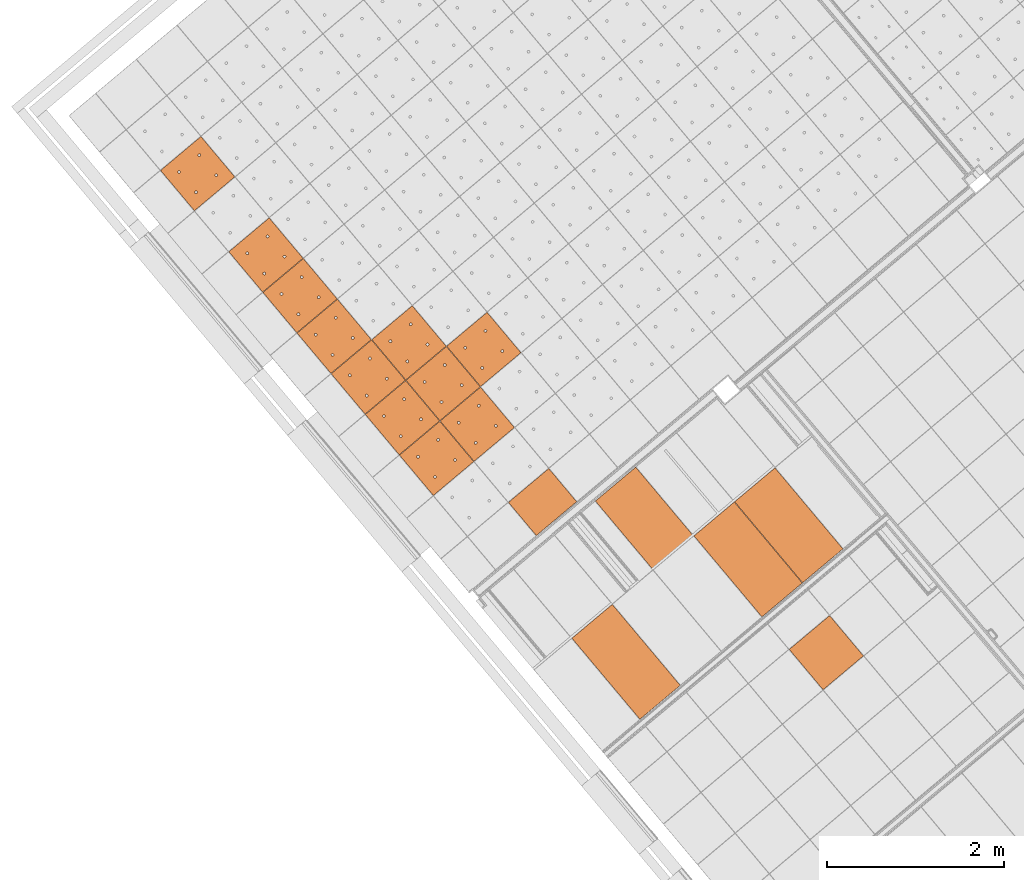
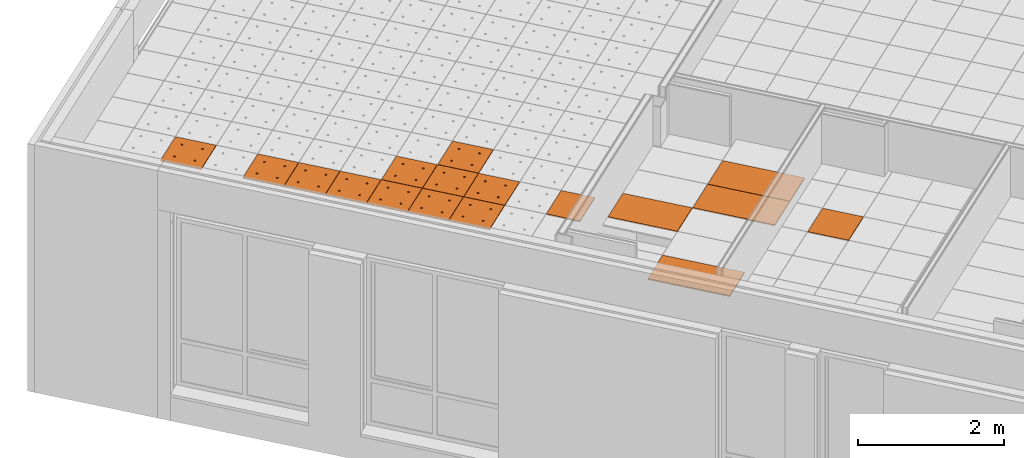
# One storey, part 138 of 338: 17 proxies, 3 elements without a shape of their own.
"""IFC2X3 building model written with IfcOpenShell, lengths in millimetres."""

from ifc_helpers import new_model, entity, si_unit, converted_unit, derived_unit, money_unit, direction, frame, origin_with_axes, place, context, subcontext, project, spatial, faceted_brep, source, transform, mapped, material, type_object, type_shapes, element, aggregate, save


model = new_model("IFC2X3")

# Units and contexts
model_context = context("Model", 3, precision=0.01, world=origin_with_axes(), true_north=direction((0.0, 1.0)))
plan_context = context("Plan", 3, precision=0.01, world=origin_with_axes(), true_north=direction((0.0, 1.0)))
body_context = subcontext(model_context, "Body", "Model", "MODEL_VIEW")
ifc_project = project(units=[si_unit("LENGTHUNIT", "METRE", prefix="MILLI"), si_unit("AREAUNIT", "SQUARE_METRE"), si_unit("VOLUMEUNIT", "CUBIC_METRE"), converted_unit("PLANEANGLEUNIT", "DEGREE", entity("IfcPlaneAngleMeasure", 0.0174532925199), si_unit("PLANEANGLEUNIT", "RADIAN"), dimensions=[0, 0, 0, 0, 0, 0, 0]), money_unit("EUR"), converted_unit("TIMEUNIT", "Year", entity("IfcTimeMeasure", 31556926.0), si_unit("TIMEUNIT", "SECOND"), dimensions=[0, 0, 1, 0, 0, 0, 0]), si_unit("MASSUNIT", "GRAM", prefix="KILO"), si_unit("THERMODYNAMICTEMPERATUREUNIT", "DEGREE_CELSIUS"), si_unit("LUMINOUSINTENSITYUNIT", "LUMEN"), si_unit("ENERGYUNIT", "JOULE", prefix="MEGA"), derived_unit("THERMALCONDUCTANCEUNIT", [(si_unit("POWERUNIT", "WATT"), 1), (si_unit("LENGTHUNIT", "METRE"), -1), (si_unit("THERMODYNAMICTEMPERATUREUNIT", "KELVIN"), -1)]), derived_unit("SPECIFICHEATCAPACITYUNIT", [(si_unit("ENERGYUNIT", "JOULE"), 1), (si_unit("MASSUNIT", "GRAM", prefix="KILO"), -1), (si_unit("THERMODYNAMICTEMPERATUREUNIT", "KELVIN"), -1)]), derived_unit("MASSDENSITYUNIT", [(si_unit("MASSUNIT", "GRAM", prefix="KILO"), 1), (si_unit("VOLUMEUNIT", "CUBIC_METRE"), -1)])], contexts=[model_context, plan_context])

# Site, building, storey
site_placement = place(None, origin_with_axes())
site = spatial("IfcSite", under=ifc_project, at=site_placement, Name="Fortuinstraat Woensdrecht", CompositionType="ELEMENT")
building_placement = place(site_placement, origin_with_axes())
building = spatial("IfcBuilding", under=site, at=building_placement, Name="IKC Fortuna", CompositionType="ELEMENT")
storey_placement = place(building_placement, origin_with_axes())
storey = spatial("IfcBuildingStorey", under=building, at=storey_placement, Name="00 begane grond", CompositionType="ELEMENT", Elevation=0.0)

# Covering, proxy
covering_type = type_object("IfcCoveringType", Name="Curtain Wall Type", PredefinedType="CEILING")
covering_1_placement = place(storey_placement, frame((6990.12644751, -7663.89158706, 4260.0), z_axis=(0.0, 0.0, 1.0), x_axis=(1.0, 0.0, 0.0)))
covering_1 = element("IfcCovering", 1, at=covering_1_placement, inside=storey, type_object=covering_type, Name="45_Plafondafwerking_P02", PredefinedType="CEILING")
ifc_material = material(Name="Gipsplaat")
building_element_proxy_type_1 = type_object("IfcBuildingElementProxyType", Name="Distinct Panel 600 x 600 x 20", PredefinedType="NOTDEFINED")
shared_shape_1 = source(origin_with_axes(), body_context, "Body", "Brep", [
    faceted_brep([(2.49999999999, 2.5, -10.0), (597.5, 2.49999999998, -10.0), (597.5, 2.49999999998, 10.0), (2.49999999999, 2.5, 10.0), (2.50000000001, 597.5, -10.0), (597.5, 597.5, -10.0), (597.5, 597.5, 10.0), (2.50000000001, 597.5, 10.0)], [[[0, 1, 2, 3]], [[0, 4, 5, 1]], [[1, 5, 6, 2]], [[3, 2, 6, 7]], [[4, 0, 3, 7]], [[5, 4, 7, 6]]]),
])
type_shapes(building_element_proxy_type_1, [shared_shape_1])
proxy_1_placement = place(covering_1_placement, frame((1822.03080608, 1528.86616558, 0.0), z_axis=(0.0, 0.0, 1.0), x_axis=(1.0, 0.0, 0.0)))
proxy_1 = element("IfcBuildingElementProxy", 2, at=proxy_1_placement, type_object=building_element_proxy_type_1, material=ifc_material, Name="__Panel-D", context=body_context, shape_type="MappedRepresentation", body=[
    mapped(shared_shape_1, transform((36.9769427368, 422.649625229, 0.0), x_axis=(-0.766044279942, -0.642787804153, 0.0), y_axis=(0.642787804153, -0.766044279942, 0.0), z_axis=(0.0, 0.0, 1.0))),
])
aggregate(covering_1, [proxy_1])

# Covering, proxies
covering_2_placement = place(storey_placement, frame((9775.85169731, -1002.28242867, 4660.0), z_axis=(0.0, 0.0, 1.0), x_axis=(1.0, 0.0, 0.0)))
covering_2 = element("IfcCovering", 3, at=covering_2_placement, inside=storey, type_object=covering_type, Name="45_Plafondafwerking_P01", PredefinedType="CEILING")
building_element_proxy_type_2 = type_object("IfcBuildingElementProxyType", Name="Main Panel 600 x 600 x 20", PredefinedType="NOTDEFINED")
shared_shape_2 = source(origin_with_axes(), body_context, "Body", "Brep", [
    faceted_brep([(2.49999999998, 2.49999999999, -10.0), (300.0, 2.49999999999, -10.0), (300.0, 2.49999999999, 10.0), (2.49999999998, 2.49999999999, 10.0), (2.49999999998, 300.0, -10.0), (2.49999999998, 597.5, -10.0), (300.0, 597.5, -10.0), (597.5, 597.5, -10.0), (597.5, 300.0, -10.0), (597.5, 2.49999999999, -10.0), (166.25, 450.06232995, -10.0), (165.79423259, 452.64711538, -10.0), (164.896546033, 455.11348892, -10.0), (163.58421608, 457.38651108, -10.0), (161.897117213, 459.39711721, -10.0), (159.886511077, 461.08421608, -10.0), (157.613488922, 462.39654603, -10.0), (155.147115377, 463.29423259, -10.0), (152.562329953, 463.75, -10.0), (149.937670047, 463.75, -10.0), (147.352884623, 463.29423259, -10.0), (144.886511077, 462.39654603, -10.0), (142.613488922, 461.08421608, -10.0), (140.602882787, 459.39711721, -10.0), (138.91578392, 457.38651108, -10.0), (137.603453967, 455.11348892, -10.0), (136.705767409, 452.64711538, -10.0), (136.25, 450.06232995, -10.0), (136.25, 448.75, -10.0), (136.25, 447.43767005, -10.0), (136.705767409, 444.85288462, -10.0), (137.603453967, 442.38651108, -10.0), (138.91578392, 440.11348892, -10.0), (140.602882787, 438.10288279, -10.0), (142.613488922, 436.41578392, -10.0), (144.886511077, 435.10345397, -10.0), (147.352884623, 434.20576741, -10.0), (149.937670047, 433.75, -10.0), (152.562329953, 433.75, -10.0), (155.147115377, 434.20576741, -10.0), (157.613488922, 435.10345397, -10.0), (159.886511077, 436.41578392, -10.0), (161.897117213, 438.10288279, -10.0), (163.58421608, 440.11348892, -10.0), (164.896546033, 442.38651108, -10.0), (165.79423259, 444.85288462, -10.0), (166.25, 447.43767005, -10.0), (463.75, 450.06232995, -10.0), (463.29423259, 452.64711538, -10.0), (462.396546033, 455.11348892, -10.0), (461.08421608, 457.38651108, -10.0), (459.397117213, 459.39711721, -10.0), (457.386511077, 461.08421608, -10.0), (455.113488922, 462.39654603, -10.0), (452.647115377, 463.29423259, -10.0), (450.062329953, 463.75, -10.0), (447.437670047, 463.75, -10.0), (444.852884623, 463.29423259, -10.0), (442.386511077, 462.39654603, -10.0), (440.113488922, 461.08421608, -10.0), (438.102882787, 459.39711721, -10.0), (436.41578392, 457.38651108, -10.0), (435.103453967, 455.11348892, -10.0), (434.205767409, 452.64711538, -10.0), (433.75, 450.06232995, -10.0), (433.75, 448.75, -10.0), (433.75, 447.43767005, -10.0), (434.205767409, 444.85288462, -10.0), (435.103453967, 442.38651108, -10.0), (436.41578392, 440.11348892, -10.0), (438.102882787, 438.10288279, -10.0), (440.113488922, 436.41578392, -10.0), (442.386511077, 435.10345397, -10.0), (444.852884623, 434.20576741, -10.0), (447.437670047, 433.75, -10.0), (450.062329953, 433.75, -10.0), (452.647115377, 434.20576741, -10.0), (455.113488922, 435.10345397, -10.0), (457.386511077, 436.41578392, -10.0), (459.397117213, 438.10288279, -10.0), (461.08421608, 440.11348892, -10.0), (462.396546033, 442.38651108, -10.0), (463.29423259, 444.85288462, -10.0), (463.75, 447.43767005, -10.0), (463.75, 152.56232995, -10.0), (463.29423259, 155.14711538, -10.0), (462.396546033, 157.61348892, -10.0), (461.08421608, 159.88651108, -10.0), (459.397117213, 161.89711721, -10.0), (457.386511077, 163.58421608, -10.0), (455.113488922, 164.89654603, -10.0), (452.647115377, 165.79423259, -10.0), (450.062329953, 166.25, -10.0), (447.437670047, 166.25, -10.0), (444.852884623, 165.79423259, -10.0), (442.386511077, 164.89654603, -10.0), (440.113488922, 163.58421608, -10.0), (438.102882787, 161.89711721, -10.0), (436.41578392, 159.88651108, -10.0), (435.103453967, 157.61348892, -10.0), (434.205767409, 155.14711538, -10.0), (433.75, 152.56232995, -10.0), (433.75, 151.25, -10.0), (433.75, 149.93767005, -10.0), (434.205767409, 147.35288462, -10.0), (435.103453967, 144.88651108, -10.0), (436.41578392, 142.61348892, -10.0), (438.102882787, 140.60288279, -10.0), (440.113488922, 138.91578392, -10.0), (442.386511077, 137.60345397, -10.0), (444.852884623, 136.70576741, -10.0), (447.437670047, 136.25, -10.0), (450.062329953, 136.25, -10.0), (452.647115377, 136.70576741, -10.0), (455.113488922, 137.60345397, -10.0), (457.386511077, 138.91578392, -10.0), (459.397117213, 140.60288279, -10.0), (461.08421608, 142.61348892, -10.0), (462.396546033, 144.88651108, -10.0), (463.29423259, 147.35288462, -10.0), (463.75, 149.93767005, -10.0), (166.25, 152.56232995, -10.0), (165.79423259, 155.14711538, -10.0), (164.896546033, 157.61348892, -10.0), (163.58421608, 159.88651108, -10.0), (161.897117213, 161.89711721, -10.0), (159.886511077, 163.58421608, -10.0), (157.613488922, 164.89654603, -10.0), (155.147115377, 165.79423259, -10.0), (152.562329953, 166.25, -10.0), (149.937670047, 166.25, -10.0), (147.352884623, 165.79423259, -10.0), (144.886511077, 164.89654603, -10.0), (142.613488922, 163.58421608, -10.0), (140.602882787, 161.89711721, -10.0), (138.91578392, 159.88651108, -10.0), (137.603453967, 157.61348892, -10.0), (136.705767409, 155.14711538, -10.0), (136.25, 152.56232995, -10.0), (136.25, 151.25, -10.0), (136.25, 149.93767005, -10.0), (136.705767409, 147.35288462, -10.0), (137.603453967, 144.88651108, -10.0), (138.91578392, 142.61348892, -10.0), (140.602882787, 140.60288279, -10.0), (142.613488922, 138.91578392, -10.0), (144.886511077, 137.60345397, -10.0), (147.352884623, 136.70576741, -10.0), (149.937670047, 136.25, -10.0), (152.562329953, 136.25, -10.0), (155.147115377, 136.70576741, -10.0), (157.613488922, 137.60345397, -10.0), (159.886511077, 138.91578392, -10.0), (161.897117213, 140.60288279, -10.0), (163.58421608, 142.61348892, -10.0), (164.896546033, 144.88651108, -10.0), (165.79423259, 147.35288462, -10.0), (166.25, 149.93767005, -10.0), (597.5, 2.49999999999, 10.0), (597.5, 300.0, 10.0), (597.5, 597.5, 10.0), (300.0, 597.5, 10.0), (2.49999999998, 597.5, 10.0), (2.49999999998, 300.0, 10.0), (166.25, 450.06232995, 10.0), (166.25, 447.43767005, 10.0), (165.79423259, 444.85288462, 10.0), (164.896546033, 442.38651108, 10.0), (163.58421608, 440.11348892, 10.0), (161.897117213, 438.10288279, 10.0), (159.886511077, 436.41578392, 10.0), (157.613488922, 435.10345397, 10.0), (155.147115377, 434.20576741, 10.0), (152.562329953, 433.75, 10.0), (149.937670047, 433.75, 10.0), (147.352884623, 434.20576741, 10.0), (144.886511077, 435.10345397, 10.0), (142.613488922, 436.41578392, 10.0), (140.602882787, 438.10288279, 10.0), (138.91578392, 440.11348892, 10.0), (137.603453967, 442.38651108, 10.0), (136.705767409, 444.85288462, 10.0), (136.25, 447.43767005, 10.0), (136.25, 448.75, 10.0), (136.25, 450.06232995, 10.0), (136.705767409, 452.64711538, 10.0), (137.603453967, 455.11348892, 10.0), (138.91578392, 457.38651108, 10.0), (140.602882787, 459.39711721, 10.0), (142.613488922, 461.08421608, 10.0), (144.886511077, 462.39654603, 10.0), (147.352884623, 463.29423259, 10.0), (149.937670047, 463.75, 10.0), (152.562329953, 463.75, 10.0), (155.147115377, 463.29423259, 10.0), (157.613488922, 462.39654603, 10.0), (159.886511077, 461.08421608, 10.0), (161.897117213, 459.39711721, 10.0), (163.58421608, 457.38651108, 10.0), (164.896546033, 455.11348892, 10.0), (165.79423259, 452.64711538, 10.0), (463.75, 450.06232995, 10.0), (463.75, 447.43767005, 10.0), (463.29423259, 444.85288462, 10.0), (462.396546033, 442.38651108, 10.0), (461.08421608, 440.11348892, 10.0), (459.397117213, 438.10288279, 10.0), (457.386511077, 436.41578392, 10.0), (455.113488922, 435.10345397, 10.0), (452.647115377, 434.20576741, 10.0), (450.062329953, 433.75, 10.0), (447.437670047, 433.75, 10.0), (444.852884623, 434.20576741, 10.0), (442.386511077, 435.10345397, 10.0), (440.113488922, 436.41578392, 10.0), (438.102882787, 438.10288279, 10.0), (436.41578392, 440.11348892, 10.0), (435.103453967, 442.38651108, 10.0), (434.205767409, 444.85288462, 10.0), (433.75, 447.43767005, 10.0), (433.75, 448.75, 10.0), (433.75, 450.06232995, 10.0), (434.205767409, 452.64711538, 10.0), (435.103453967, 455.11348892, 10.0), (436.41578392, 457.38651108, 10.0), (438.102882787, 459.39711721, 10.0), (440.113488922, 461.08421608, 10.0), (442.386511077, 462.39654603, 10.0), (444.852884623, 463.29423259, 10.0), (447.437670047, 463.75, 10.0), (450.062329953, 463.75, 10.0), (452.647115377, 463.29423259, 10.0), (455.113488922, 462.39654603, 10.0), (457.386511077, 461.08421608, 10.0), (459.397117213, 459.39711721, 10.0), (461.08421608, 457.38651108, 10.0), (462.396546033, 455.11348892, 10.0), (463.29423259, 452.64711538, 10.0), (463.75, 152.56232995, 10.0), (463.75, 149.93767005, 10.0), (463.29423259, 147.35288462, 10.0), (462.396546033, 144.88651108, 10.0), (461.08421608, 142.61348892, 10.0), (459.397117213, 140.60288279, 10.0), (457.386511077, 138.91578392, 10.0), (455.113488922, 137.60345397, 10.0), (452.647115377, 136.70576741, 10.0), (450.062329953, 136.25, 10.0), (447.437670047, 136.25, 10.0), (444.852884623, 136.70576741, 10.0), (442.386511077, 137.60345397, 10.0), (440.113488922, 138.91578392, 10.0), (438.102882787, 140.60288279, 10.0), (436.41578392, 142.61348892, 10.0), (435.103453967, 144.88651108, 10.0), (434.205767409, 147.35288462, 10.0), (433.75, 149.93767005, 10.0), (433.75, 151.25, 10.0), (433.75, 152.56232995, 10.0), (434.205767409, 155.14711538, 10.0), (435.103453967, 157.61348892, 10.0), (436.41578392, 159.88651108, 10.0), (438.102882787, 161.89711721, 10.0), (440.113488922, 163.58421608, 10.0), (442.386511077, 164.89654603, 10.0), (444.852884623, 165.79423259, 10.0), (447.437670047, 166.25, 10.0), (450.062329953, 166.25, 10.0), (452.647115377, 165.79423259, 10.0), (455.113488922, 164.89654603, 10.0), (457.386511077, 163.58421608, 10.0), (459.397117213, 161.89711721, 10.0), (461.08421608, 159.88651108, 10.0), (462.396546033, 157.61348892, 10.0), (463.29423259, 155.14711538, 10.0), (166.25, 152.56232995, 10.0), (166.25, 149.93767005, 10.0), (165.79423259, 147.35288462, 10.0), (164.896546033, 144.88651108, 10.0), (163.58421608, 142.61348892, 10.0), (161.897117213, 140.60288279, 10.0), (159.886511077, 138.91578392, 10.0), (157.613488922, 137.60345397, 10.0), (155.147115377, 136.70576741, 10.0), (152.562329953, 136.25, 10.0), (149.937670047, 136.25, 10.0), (147.352884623, 136.70576741, 10.0), (144.886511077, 137.60345397, 10.0), (142.613488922, 138.91578392, 10.0), (140.602882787, 140.60288279, 10.0), (138.91578392, 142.61348892, 10.0), (137.603453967, 144.88651108, 10.0), (136.705767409, 147.35288462, 10.0), (136.25, 149.93767005, 10.0), (136.25, 151.25, 10.0), (136.25, 152.56232995, 10.0), (136.705767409, 155.14711538, 10.0), (137.603453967, 157.61348892, 10.0), (138.91578392, 159.88651108, 10.0), (140.602882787, 161.89711721, 10.0), (142.613488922, 163.58421608, 10.0), (144.886511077, 164.89654603, 10.0), (147.352884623, 165.79423259, 10.0), (149.937670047, 166.25, 10.0), (152.562329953, 166.25, 10.0), (155.147115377, 165.79423259, 10.0), (157.613488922, 164.89654603, 10.0), (159.886511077, 163.58421608, 10.0), (161.897117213, 161.89711721, 10.0), (163.58421608, 159.88651108, 10.0), (164.896546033, 157.61348892, 10.0), (165.79423259, 155.14711538, 10.0)], [[[0, 1, 2, 3]], [[0, 4, 5, 6, 7, 8, 9, 1], [10, 11, 12, 13, 14, 15, 16, 17, 18, 19, 20, 21, 22, 23, 24, 25, 26, 27, 28, 29, 30, 31, 32, 33, 34, 35, 36, 37, 38, 39, 40, 41, 42, 43, 44, 45, 46], [47, 48, 49, 50, 51, 52, 53, 54, 55, 56, 57, 58, 59, 60, 61, 62, 63, 64, 65, 66, 67, 68, 69, 70, 71, 72, 73, 74, 75, 76, 77, 78, 79, 80, 81, 82, 83], [84, 85, 86, 87, 88, 89, 90, 91, 92, 93, 94, 95, 96, 97, 98, 99, 100, 101, 102, 103, 104, 105, 106, 107, 108, 109, 110, 111, 112, 113, 114, 115, 116, 117, 118, 119, 120], [121, 122, 123, 124, 125, 126, 127, 128, 129, 130, 131, 132, 133, 134, 135, 136, 137, 138, 139, 140, 141, 142, 143, 144, 145, 146, 147, 148, 149, 150, 151, 152, 153, 154, 155, 156, 157]], [[1, 9, 158, 2]], [[3, 2, 158, 159, 160, 161, 162, 163], [164, 165, 166, 167, 168, 169, 170, 171, 172, 173, 174, 175, 176, 177, 178, 179, 180, 181, 182, 183, 184, 185, 186, 187, 188, 189, 190, 191, 192, 193, 194, 195, 196, 197, 198, 199, 200], [201, 202, 203, 204, 205, 206, 207, 208, 209, 210, 211, 212, 213, 214, 215, 216, 217, 218, 219, 220, 221, 222, 223, 224, 225, 226, 227, 228, 229, 230, 231, 232, 233, 234, 235, 236, 237], [238, 239, 240, 241, 242, 243, 244, 245, 246, 247, 248, 249, 250, 251, 252, 253, 254, 255, 256, 257, 258, 259, 260, 261, 262, 263, 264, 265, 266, 267, 268, 269, 270, 271, 272, 273, 274], [275, 276, 277, 278, 279, 280, 281, 282, 283, 284, 285, 286, 287, 288, 289, 290, 291, 292, 293, 294, 295, 296, 297, 298, 299, 300, 301, 302, 303, 304, 305, 306, 307, 308, 309, 310, 311]], [[4, 0, 3, 163]], [[5, 4, 163, 162]], [[6, 5, 162, 161]], [[7, 6, 161, 160]], [[8, 7, 160, 159]], [[9, 8, 159, 158]], [[11, 10, 164, 200]], [[12, 11, 200, 199]], [[13, 12, 199, 198]], [[14, 13, 198, 197]], [[15, 14, 197, 196]], [[16, 15, 196, 195]], [[17, 16, 195, 194]], [[18, 17, 194, 193]], [[19, 18, 193, 192]], [[20, 19, 192, 191]], [[21, 20, 191, 190]], [[22, 21, 190, 189]], [[23, 22, 189, 188]], [[24, 23, 188, 187]], [[25, 24, 187, 186]], [[26, 25, 186, 185]], [[27, 26, 185, 184]], [[28, 27, 184, 183]], [[29, 28, 183, 182]], [[30, 29, 182, 181]], [[31, 30, 181, 180]], [[32, 31, 180, 179]], [[33, 32, 179, 178]], [[34, 33, 178, 177]], [[35, 34, 177, 176]], [[36, 35, 176, 175]], [[37, 36, 175, 174]], [[38, 37, 174, 173]], [[39, 38, 173, 172]], [[40, 39, 172, 171]], [[41, 40, 171, 170]], [[42, 41, 170, 169]], [[43, 42, 169, 168]], [[44, 43, 168, 167]], [[45, 44, 167, 166]], [[46, 45, 166, 165]], [[10, 46, 165, 164]], [[48, 47, 201, 237]], [[49, 48, 237, 236]], [[50, 49, 236, 235]], [[51, 50, 235, 234]], [[52, 51, 234, 233]], [[53, 52, 233, 232]], [[54, 53, 232, 231]], [[55, 54, 231, 230]], [[56, 55, 230, 229]], [[57, 56, 229, 228]], [[58, 57, 228, 227]], [[59, 58, 227, 226]], [[60, 59, 226, 225]], [[61, 60, 225, 224]], [[62, 61, 224, 223]], [[63, 62, 223, 222]], [[64, 63, 222, 221]], [[65, 64, 221, 220]], [[66, 65, 220, 219]], [[67, 66, 219, 218]], [[68, 67, 218, 217]], [[69, 68, 217, 216]], [[70, 69, 216, 215]], [[71, 70, 215, 214]], [[72, 71, 214, 213]], [[73, 72, 213, 212]], [[74, 73, 212, 211]], [[75, 74, 211, 210]], [[76, 75, 210, 209]], [[77, 76, 209, 208]], [[78, 77, 208, 207]], [[79, 78, 207, 206]], [[80, 79, 206, 205]], [[81, 80, 205, 204]], [[82, 81, 204, 203]], [[83, 82, 203, 202]], [[47, 83, 202, 201]], [[85, 84, 238, 274]], [[86, 85, 274, 273]], [[87, 86, 273, 272]], [[88, 87, 272, 271]], [[89, 88, 271, 270]], [[90, 89, 270, 269]], [[91, 90, 269, 268]], [[92, 91, 268, 267]], [[93, 92, 267, 266]], [[94, 93, 266, 265]], [[95, 94, 265, 264]], [[96, 95, 264, 263]], [[97, 96, 263, 262]], [[98, 97, 262, 261]], [[99, 98, 261, 260]], [[100, 99, 260, 259]], [[101, 100, 259, 258]], [[102, 101, 258, 257]], [[103, 102, 257, 256]], [[104, 103, 256, 255]], [[105, 104, 255, 254]], [[106, 105, 254, 253]], [[107, 106, 253, 252]], [[108, 107, 252, 251]], [[109, 108, 251, 250]], [[110, 109, 250, 249]], [[111, 110, 249, 248]], [[112, 111, 248, 247]], [[113, 112, 247, 246]], [[114, 113, 246, 245]], [[115, 114, 245, 244]], [[116, 115, 244, 243]], [[117, 116, 243, 242]], [[118, 117, 242, 241]], [[119, 118, 241, 240]], [[120, 119, 240, 239]], [[84, 120, 239, 238]], [[122, 121, 275, 311]], [[123, 122, 311, 310]], [[124, 123, 310, 309]], [[125, 124, 309, 308]], [[126, 125, 308, 307]], [[127, 126, 307, 306]], [[128, 127, 306, 305]], [[129, 128, 305, 304]], [[130, 129, 304, 303]], [[131, 130, 303, 302]], [[132, 131, 302, 301]], [[133, 132, 301, 300]], [[134, 133, 300, 299]], [[135, 134, 299, 298]], [[136, 135, 298, 297]], [[137, 136, 297, 296]], [[138, 137, 296, 295]], [[139, 138, 295, 294]], [[140, 139, 294, 293]], [[141, 140, 293, 292]], [[142, 141, 292, 291]], [[143, 142, 291, 290]], [[144, 143, 290, 289]], [[145, 144, 289, 288]], [[146, 145, 288, 287]], [[147, 146, 287, 286]], [[148, 147, 286, 285]], [[149, 148, 285, 284]], [[150, 149, 284, 283]], [[151, 150, 283, 282]], [[152, 151, 282, 281]], [[153, 152, 281, 280]], [[154, 153, 280, 279]], [[155, 154, 279, 278]], [[156, 155, 278, 277]], [[157, 156, 277, 276]], [[121, 157, 276, 275]]]),
])
type_shapes(building_element_proxy_type_2, [shared_shape_2])
proxy_2_placement = place(covering_2_placement, frame((-4834.03060557, -1706.50173892, 1.7674750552e-10), z_axis=(0.0, 0.0, 1.0), x_axis=(1.0, 0.0, 0.0)))
proxy_2 = element("IfcBuildingElementProxy", 4, at=proxy_2_placement, type_object=building_element_proxy_type_2, material=ifc_material, Name="__600x603 Rockfon Krios", context=body_context, shape_type="MappedRepresentation", body=[
    mapped(shared_shape_2, transform((36.9769427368, 422.649625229, 0.0), x_axis=(-0.766044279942, -0.642787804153, 0.0), y_axis=(0.642787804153, -0.766044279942, 0.0), z_axis=(0.0, 0.0, 1.0))),
])
proxy_3_placement = place(covering_2_placement, frame((-8067.31983645, 279.912303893, 2.16715534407e-10), z_axis=(0.0, 0.0, 1.0), x_axis=(1.0, 0.0, 0.0)))
proxy_3 = element("IfcBuildingElementProxy", 5, at=proxy_3_placement, type_object=building_element_proxy_type_2, material=ifc_material, Name="__600x607 Rockfon Krios", context=body_context, shape_type="MappedRepresentation", body=[
    mapped(shared_shape_2, transform((36.9769427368, 422.649625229, 0.0), x_axis=(-0.766044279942, -0.642787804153, 0.0), y_axis=(0.642787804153, -0.766044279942, 0.0), z_axis=(0.0, 0.0, 1.0))),
])
proxy_4_placement = place(covering_2_placement, frame((-5293.65717353, -2092.17442141, 1.96287430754e-10), z_axis=(0.0, 0.0, 1.0), x_axis=(1.0, 0.0, 0.0)))
proxy_4 = element("IfcBuildingElementProxy", 6, at=proxy_4_placement, type_object=building_element_proxy_type_2, material=ifc_material, Name="__600x633 Rockfon Krios", context=body_context, shape_type="MappedRepresentation", body=[
    mapped(shared_shape_2, transform((36.9769427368, 422.649625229, 0.0), x_axis=(-0.766044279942, -0.642787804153, 0.0), y_axis=(0.642787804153, -0.766044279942, 0.0), z_axis=(0.0, 0.0, 1.0))),
])
proxy_5_placement = place(covering_2_placement, frame((-6138.95642399, -2018.22053593, 2.16715534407e-10), z_axis=(0.0, 0.0, 1.0), x_axis=(1.0, 0.0, 0.0)))
proxy_5 = element("IfcBuildingElementProxy", 7, at=proxy_5_placement, type_object=building_element_proxy_type_2, material=ifc_material, Name="__600x673 Rockfon Krios", context=body_context, shape_type="MappedRepresentation", body=[
    mapped(shared_shape_2, transform((36.9769427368, 422.649625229, 0.0), x_axis=(-0.766044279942, -0.642787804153, 0.0), y_axis=(0.642787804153, -0.766044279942, 0.0), z_axis=(0.0, 0.0, 1.0))),
])
proxy_6_placement = place(covering_2_placement, frame((-7295.97447146, -639.340832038, 2.16715534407e-10), z_axis=(0.0, 0.0, 1.0), x_axis=(1.0, 0.0, 0.0)))
proxy_6 = element("IfcBuildingElementProxy", 8, at=proxy_6_placement, type_object=building_element_proxy_type_2, material=ifc_material, Name="__600x674 Rockfon Krios", context=body_context, shape_type="MappedRepresentation", body=[
    mapped(shared_shape_2, transform((36.9769427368, 422.649625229, 0.0), x_axis=(-0.766044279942, -0.642787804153, 0.0), y_axis=(0.642787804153, -0.766044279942, 0.0), z_axis=(0.0, 0.0, 1.0))),
])
proxy_7_placement = place(covering_2_placement, frame((-5753.2837415, -2477.8471039, 2.16715534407e-10), z_axis=(0.0, 0.0, 1.0), x_axis=(1.0, 0.0, 0.0)))
proxy_7 = element("IfcBuildingElementProxy", 9, at=proxy_7_placement, type_object=building_element_proxy_type_2, material=ifc_material, Name="__600x676 Rockfon Krios", context=body_context, shape_type="MappedRepresentation", body=[
    mapped(shared_shape_2, transform((36.9769427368, 422.649625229, 0.0), x_axis=(-0.766044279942, -0.642787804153, 0.0), y_axis=(0.642787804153, -0.766044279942, 0.0), z_axis=(0.0, 0.0, 1.0))),
])
proxy_8_placement = place(covering_2_placement, frame((-6524.62910648, -1558.59396797, 2.16715534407e-10), z_axis=(0.0, 0.0, 1.0), x_axis=(1.0, 0.0, 0.0)))
proxy_8 = element("IfcBuildingElementProxy", 10, at=proxy_8_placement, type_object=building_element_proxy_type_2, material=ifc_material, Name="__600x677 Rockfon Krios", context=body_context, shape_type="MappedRepresentation", body=[
    mapped(shared_shape_2, transform((36.9769427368, 422.649625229, 0.0), x_axis=(-0.766044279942, -0.642787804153, 0.0), y_axis=(0.642787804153, -0.766044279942, 0.0), z_axis=(0.0, 0.0, 1.0))),
])
proxy_9_placement = place(covering_2_placement, frame((-4907.98449104, -2551.80098937, 1.96287430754e-10), z_axis=(0.0, 0.0, 1.0), x_axis=(1.0, 0.0, 0.0)))
proxy_9 = element("IfcBuildingElementProxy", 11, at=proxy_9_placement, type_object=building_element_proxy_type_2, material=ifc_material, Name="__600x679 Rockfon Krios", context=body_context, shape_type="MappedRepresentation", body=[
    mapped(shared_shape_2, transform((36.9769427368, 422.649625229, 0.0), x_axis=(-0.766044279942, -0.642787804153, 0.0), y_axis=(0.642787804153, -0.766044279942, 0.0), z_axis=(0.0, 0.0, 1.0))),
])
proxy_10_placement = place(covering_2_placement, frame((-6910.30178897, -1098.9674, 2.16715534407e-10), z_axis=(0.0, 0.0, 1.0), x_axis=(1.0, 0.0, 0.0)))
proxy_10 = element("IfcBuildingElementProxy", 12, at=proxy_10_placement, type_object=building_element_proxy_type_2, material=ifc_material, Name="__600x680 Rockfon Krios", context=body_context, shape_type="MappedRepresentation", body=[
    mapped(shared_shape_2, transform((36.9769427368, 422.649625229, 0.0), x_axis=(-0.766044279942, -0.642787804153, 0.0), y_axis=(0.642787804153, -0.766044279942, 0.0), z_axis=(0.0, 0.0, 1.0))),
])
proxy_11_placement = place(covering_2_placement, frame((-5367.611059, -2937.47367186, 2.16715534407e-10), z_axis=(0.0, 0.0, 1.0), x_axis=(1.0, 0.0, 0.0)))
proxy_11 = element("IfcBuildingElementProxy", 13, at=proxy_11_placement, type_object=building_element_proxy_type_2, material=ifc_material, Name="__600x681 Rockfon Krios", context=body_context, shape_type="MappedRepresentation", body=[
    mapped(shared_shape_2, transform((36.9769427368, 422.649625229, 0.0), x_axis=(-0.766044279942, -0.642787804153, 0.0), y_axis=(0.642787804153, -0.766044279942, 0.0), z_axis=(0.0, 0.0, 1.0))),
])
proxy_12_placement = place(covering_2_placement, frame((-5679.32985602, -1632.54785344, 1.96287430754e-10), z_axis=(0.0, 0.0, 1.0), x_axis=(1.0, 0.0, 0.0)))
proxy_12 = element("IfcBuildingElementProxy", 14, at=proxy_12_placement, type_object=building_element_proxy_type_2, material=ifc_material, Name="__600x683 Rockfon Krios", context=body_context, shape_type="MappedRepresentation", body=[
    mapped(shared_shape_2, transform((36.9769427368, 422.649625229, 0.0), x_axis=(-0.766044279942, -0.642787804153, 0.0), y_axis=(0.642787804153, -0.766044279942, 0.0), z_axis=(0.0, 0.0, 1.0))),
])

covering_3_placement = place(storey_placement, frame((6017.19720753, -6528.82230411, 4260.0), z_axis=(0.0, 0.0, 1.0), x_axis=(1.0, 0.0, 0.0)))
covering_3 = element("IfcCovering", 15, at=covering_3_placement, inside=storey, type_object=covering_type, Name="45_Plafondafwerking_P02a", PredefinedType="CEILING")
building_element_proxy_type_3 = type_object("IfcBuildingElementProxyType", Name="Distinct Panel 600 x 1200 x 20", PredefinedType="NOTDEFINED")
shared_shape_3 = source(origin_with_axes(), body_context, "Body", "Brep", [
    faceted_brep([(-597.500010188, 2.49999841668, -10.0), (-597.500010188, 2.49999841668, 10.0), (-597.50000594, 1197.41533383, 10.0), (-597.50000594, 1197.41533383, -10.0), (-2.49999919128, 2.50001055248, -10.0), (-2.49999919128, 2.50001055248, 10.0), (-2.500002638, 1197.41527637, 10.0), (-2.500002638, 1197.41527637, -10.0)], [[[0, 1, 2, 3]], [[4, 5, 1, 0]], [[1, 5, 6, 2]], [[3, 2, 6, 7]], [[0, 3, 7, 4]], [[7, 6, 5, 4]]]),
])
type_shapes(building_element_proxy_type_3, [shared_shape_3])
proxy_13_placement = place(covering_3_placement, frame((532.306185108, 290.020212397, 0.0), z_axis=(0.0, 0.0, 1.0), x_axis=(1.0, 0.0, 0.0)))
proxy_13 = element("IfcBuildingElementProxy", 16, at=proxy_13_placement, type_object=building_element_proxy_type_3, material=ifc_material, Name="__Panel-D", context=body_context, shape_type="MappedRepresentation", body=[
    mapped(shared_shape_3, transform((-615.45872005, 266.757849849, 0.0), x_axis=(-0.766044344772, -0.642787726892, 0.0), y_axis=(0.642787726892, -0.766044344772, 0.0), z_axis=(0.0, 0.0, 1.0))),
])
proxy_14_placement = place(covering_3_placement, frame((1911.18601242, 1447.03811279, 0.0), z_axis=(0.0, 0.0, 1.0), x_axis=(1.0, 0.0, 0.0)))
proxy_14 = element("IfcBuildingElementProxy", 17, at=proxy_14_placement, type_object=building_element_proxy_type_3, material=ifc_material, Name="__Panel-D", context=body_context, shape_type="MappedRepresentation", body=[
    mapped(shared_shape_3, transform((-615.458726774, 266.757857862, 0.0), x_axis=(-0.766044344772, -0.642787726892, 0.0), y_axis=(0.642787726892, -0.766044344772, 0.0), z_axis=(0.0, 0.0, 1.0))),
])
proxy_15_placement = place(covering_3_placement, frame((2370.81261929, 1832.71074892, 1.04805053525e-10), z_axis=(0.0, 0.0, 1.0), x_axis=(1.0, 0.0, 0.0)))
proxy_15 = element("IfcBuildingElementProxy", 18, at=proxy_15_placement, type_object=building_element_proxy_type_3, material=ifc_material, Name="__Panel-D", context=body_context, shape_type="MappedRepresentation", body=[
    mapped(shared_shape_3, transform((-615.458726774, 266.757857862, 0.0), x_axis=(-0.766044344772, -0.642787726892, 0.0), y_axis=(0.642787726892, -0.766044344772, 0.0), z_axis=(0.0, 0.0, 1.0))),
])
building_element_proxy_type_4 = type_object("IfcBuildingElementProxyType", Name="Distinct Panel 600 x 1018 x 20", PredefinedType="NOTDEFINED")
shared_shape_4 = source(origin_with_axes(), body_context, "Body", "Brep", [
    faceted_brep([(-597.500006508, 184.999490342, -10.0), (-597.500006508, 184.999490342, 10.0), (-597.499990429, 1197.50001325, 10.0), (-597.499990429, 1197.50001325, -10.0), (-2.49999400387, 184.999595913, -10.0), (-2.49999400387, 184.999595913, 10.0), (-2.50000281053, 1197.49998127, 10.0), (-2.50000281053, 1197.49998127, -10.0)], [[[0, 1, 2, 3]], [[4, 5, 1, 0]], [[1, 5, 6, 2]], [[3, 2, 6, 7]], [[0, 3, 7, 4]], [[7, 6, 5, 4]]]),
])
type_shapes(building_element_proxy_type_4, [shared_shape_4])
proxy_16_placement = place(covering_3_placement, frame((738.895610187, 1910.6848512, 0.0), z_axis=(0.0, 0.0, 1.0), x_axis=(1.0, 0.0, 0.0)))
proxy_16 = element("IfcBuildingElementProxy", 19, at=proxy_16_placement, type_object=building_element_proxy_type_4, material=ifc_material, Name="__Panel-D", context=body_context, shape_type="MappedRepresentation", body=[
    mapped(shared_shape_4, transform((-674.140203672, 336.691697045, 0.0), x_axis=(-0.766044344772, -0.642787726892, 0.0), y_axis=(0.642787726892, -0.766044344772, 0.0), z_axis=(0.0, 0.0, 1.0))),
])
aggregate(covering_3, [proxy_13, proxy_16, proxy_14, proxy_15])

# Proxy
building_element_proxy_type_5 = type_object("IfcBuildingElementProxyType", Name="600 x 495 x 20", PredefinedType="NOTDEFINED")
shared_shape_5 = source(origin_with_axes(), body_context, "Body", "Brep", [
    faceted_brep([(2.49999828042, 2.49999271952, -10.0), (597.500011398, 2.50000259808, -10.0), (597.500011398, 2.50000259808, 10.0), (2.49999828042, 2.49999271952, 10.0), (2.49999628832, 492.591328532, -10.0), (597.500001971, 492.59132955, -10.0), (597.500001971, 492.59132955, 10.0), (2.49999628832, 492.591328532, 10.0)], [[[0, 1, 2, 3]], [[0, 4, 5, 1]], [[1, 5, 6, 2]], [[3, 2, 6, 7]], [[4, 0, 3, 7]], [[5, 4, 7, 6]]]),
])
type_shapes(building_element_proxy_type_5, [shared_shape_5])
proxy_17_placement = place(covering_2_placement, frame((-4170.35613544, -3430.87177895, 1.96287430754e-10), z_axis=(0.0, 0.0, 1.0), x_axis=(1.0, 0.0, 0.0)))
proxy_17 = element("IfcBuildingElementProxy", 20, at=proxy_17_placement, type_object=building_element_proxy_type_5, material=ifc_material, Name="__600x672 Rockfon Krios", context=body_context, shape_type="MappedRepresentation", body=[
    mapped(shared_shape_5, transform((70.6939521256, 382.467278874, 0.0), x_axis=(-0.766044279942, -0.642787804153, 0.0), y_axis=(0.642787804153, -0.766044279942, 0.0), z_axis=(0.0, 0.0, 1.0))),
])

aggregate(covering_2, [proxy_2, proxy_3, proxy_4, proxy_17, proxy_5, proxy_6, proxy_7, proxy_8, proxy_9, proxy_10, proxy_11, proxy_12])

save(model, "model.ifc")
